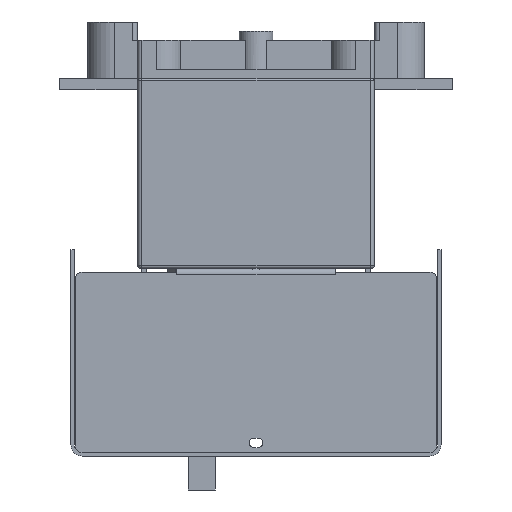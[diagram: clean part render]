
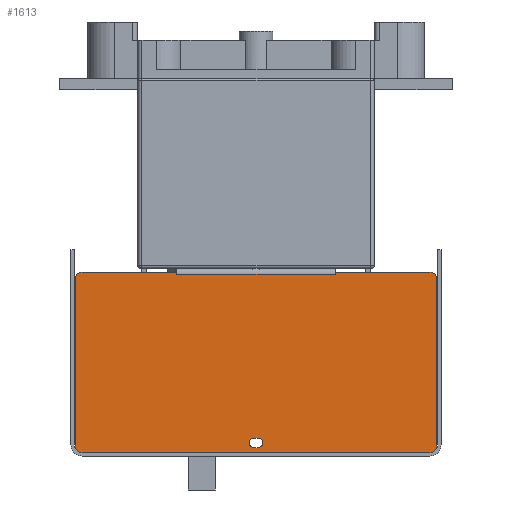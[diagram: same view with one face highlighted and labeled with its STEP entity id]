
A CAD part, left-side view. The second image highlights one B-rep face of the part: STEP entity #1613.
In plain terms, the highlighted planar face has unit normal (-1, 0, 0).
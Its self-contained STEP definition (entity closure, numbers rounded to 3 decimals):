
#1613=ADVANCED_FACE('',(#6957,#6958),#2451,.T.);
#2451=PLANE('',#19322);
#3534=LINE('',#27707,#5500);
#3544=LINE('',#27732,#5510);
#3546=LINE('',#27736,#5512);
#3548=LINE('',#27740,#5514);
#3551=LINE('',#27746,#5517);
#3561=LINE('',#27781,#5527);
#3562=LINE('',#27785,#5528);
#3563=LINE('',#27786,#5529);
#3564=LINE('',#27790,#5530);
#3565=LINE('',#27794,#5531);
#3566=LINE('',#27798,#5532);
#3567=LINE('',#27802,#5533);
#5500=VECTOR('',#22209,1.);
#5510=VECTOR('',#22235,1.);
#5512=VECTOR('',#22239,1.);
#5514=VECTOR('',#22243,1.);
#5517=VECTOR('',#22248,1.);
#5527=VECTOR('',#22276,1.);
#5528=VECTOR('',#22279,1.);
#5529=VECTOR('',#22280,1.);
#5530=VECTOR('',#22283,1.);
#5531=VECTOR('',#22286,1.);
#5532=VECTOR('',#22289,1.);
#5533=VECTOR('',#22292,1.);
#6957=FACE_BOUND('',#7524,.T.);
#6958=FACE_BOUND('',#7525,.T.);
#7524=EDGE_LOOP('',(#10116,#10117,#10118,#10119));
#7525=EDGE_LOOP('',(#10120,#10121,#10122,#10123,#10124,#10125,#10126,#10127,
#10128,#10129,#10130,#10131,#10132,#10133));
#10116=ORIENTED_EDGE('',*,*,#16308,.T.);
#10117=ORIENTED_EDGE('',*,*,#16309,.T.);
#10118=ORIENTED_EDGE('',*,*,#16310,.T.);
#10119=ORIENTED_EDGE('',*,*,#16311,.T.);
#10120=ORIENTED_EDGE('',*,*,#16287,.F.);
#10121=ORIENTED_EDGE('',*,*,#16285,.T.);
#10122=ORIENTED_EDGE('',*,*,#16272,.T.);
#10123=ORIENTED_EDGE('',*,*,#16289,.T.);
#10124=ORIENTED_EDGE('',*,*,#16292,.F.);
#10125=ORIENTED_EDGE('',*,*,#16312,.T.);
#10126=ORIENTED_EDGE('',*,*,#16313,.T.);
#10127=ORIENTED_EDGE('',*,*,#16314,.T.);
#10128=ORIENTED_EDGE('',*,*,#16315,.T.);
#10129=ORIENTED_EDGE('',*,*,#16316,.T.);
#10130=ORIENTED_EDGE('',*,*,#16317,.T.);
#10131=ORIENTED_EDGE('',*,*,#16318,.T.);
#10132=ORIENTED_EDGE('',*,*,#16319,.T.);
#10133=ORIENTED_EDGE('',*,*,#16320,.T.);
#14229=VERTEX_POINT('',#27706);
#14230=VERTEX_POINT('',#27708);
#14235=VERTEX_POINT('',#27729);
#14238=VERTEX_POINT('',#27737);
#14239=VERTEX_POINT('',#27741);
#14241=VERTEX_POINT('',#27747);
#14255=VERTEX_POINT('',#27779);
#14256=VERTEX_POINT('',#27780);
#14257=VERTEX_POINT('',#27782);
#14258=VERTEX_POINT('',#27784);
#14259=VERTEX_POINT('',#27787);
#14260=VERTEX_POINT('',#27789);
#14261=VERTEX_POINT('',#27791);
#14262=VERTEX_POINT('',#27793);
#14263=VERTEX_POINT('',#27795);
#14264=VERTEX_POINT('',#27797);
#14265=VERTEX_POINT('',#27799);
#14266=VERTEX_POINT('',#27801);
#16272=EDGE_CURVE('',#14230,#14229,#3534,.T.);
#16285=EDGE_CURVE('',#14235,#14230,#3544,.T.);
#16287=EDGE_CURVE('',#14235,#14238,#3546,.T.);
#16289=EDGE_CURVE('',#14229,#14239,#3548,.T.);
#16292=EDGE_CURVE('',#14241,#14239,#3551,.T.);
#16308=EDGE_CURVE('',#14255,#14256,#18269,.T.);
#16309=EDGE_CURVE('',#14256,#14257,#3561,.T.);
#16310=EDGE_CURVE('',#14257,#14258,#18270,.T.);
#16311=EDGE_CURVE('',#14258,#14255,#3562,.T.);
#16312=EDGE_CURVE('',#14241,#14259,#3563,.T.);
#16313=EDGE_CURVE('',#14259,#14260,#18271,.T.);
#16314=EDGE_CURVE('',#14260,#14261,#3564,.T.);
#16315=EDGE_CURVE('',#14261,#14262,#18272,.T.);
#16316=EDGE_CURVE('',#14262,#14263,#3565,.T.);
#16317=EDGE_CURVE('',#14263,#14264,#18273,.T.);
#16318=EDGE_CURVE('',#14264,#14265,#3566,.T.);
#16319=EDGE_CURVE('',#14265,#14266,#18274,.T.);
#16320=EDGE_CURVE('',#14266,#14238,#3567,.T.);
#18269=CIRCLE('',#19316,2.1);
#18270=CIRCLE('',#19317,2.1);
#18271=CIRCLE('',#19318,3.);
#18272=CIRCLE('',#19319,3.);
#18273=CIRCLE('',#19320,3.);
#18274=CIRCLE('',#19321,3.);
#19316=AXIS2_PLACEMENT_3D('',#27778,#22274,#22275);
#19317=AXIS2_PLACEMENT_3D('',#27783,#22277,#22278);
#19318=AXIS2_PLACEMENT_3D('',#27788,#22281,#22282);
#19319=AXIS2_PLACEMENT_3D('',#27792,#22284,#22285);
#19320=AXIS2_PLACEMENT_3D('',#27796,#22287,#22288);
#19321=AXIS2_PLACEMENT_3D('',#27800,#22290,#22291);
#19322=AXIS2_PLACEMENT_3D('',#27803,#22293,#22294);
#22209=DIRECTION('',(0.,1.,0.));
#22235=DIRECTION('',(0.,1.,0.));
#22239=DIRECTION('',(0.,0.,1.));
#22243=DIRECTION('',(0.,1.,0.));
#22248=DIRECTION('',(0.,0.,-1.));
#22274=DIRECTION('',(1.,0.,0.));
#22275=DIRECTION('',(0.,1.,0.));
#22276=DIRECTION('',(0.,-1.,0.));
#22277=DIRECTION('',(1.,0.,0.));
#22278=DIRECTION('',(0.,1.,0.));
#22279=DIRECTION('',(0.,1.,0.));
#22280=DIRECTION('',(0.,1.,0.));
#22281=DIRECTION('',(-1.,0.,0.));
#22282=DIRECTION('',(0.,1.,0.));
#22283=DIRECTION('',(0.,0.,-1.));
#22284=DIRECTION('',(-1.,0.,0.));
#22285=DIRECTION('',(0.,1.,0.));
#22286=DIRECTION('',(0.,-1.,0.));
#22287=DIRECTION('',(-1.,0.,0.));
#22288=DIRECTION('',(0.,1.,0.));
#22289=DIRECTION('',(0.,0.,1.));
#22290=DIRECTION('',(-1.,0.,0.));
#22291=DIRECTION('',(0.,1.,0.));
#22292=DIRECTION('',(0.,1.,0.));
#22293=DIRECTION('',(-1.,0.,0.));
#22294=DIRECTION('',(0.,-1.,0.));
#27706=CARTESIAN_POINT('',(-189.3,35.,-86.8));
#27707=CARTESIAN_POINT('',(-189.3,50.5,-86.8));
#27708=CARTESIAN_POINT('',(-189.3,-35.,-86.8));
#27729=CARTESIAN_POINT('',(-189.3,-35.002,-86.8));
#27732=CARTESIAN_POINT('',(-189.3,77.,-86.8));
#27736=CARTESIAN_POINT('',(-189.3,-35.002,-162.8));
#27737=CARTESIAN_POINT('',(-189.3,-35.002,-85.8));
#27740=CARTESIAN_POINT('',(-189.3,77.,-86.8));
#27741=CARTESIAN_POINT('',(-189.3,35.002,-86.8));
#27746=CARTESIAN_POINT('',(-189.3,35.002,-162.8));
#27747=CARTESIAN_POINT('',(-189.3,35.002,-85.8));
#27778=CARTESIAN_POINT('',(-189.3,1.,-161.4));
#27779=CARTESIAN_POINT('',(-189.3,1.,-163.5));
#27780=CARTESIAN_POINT('',(-189.3,1.,-159.3));
#27781=CARTESIAN_POINT('',(-189.3,1.,-159.3));
#27782=CARTESIAN_POINT('',(-189.3,-1.,-159.3));
#27783=CARTESIAN_POINT('',(-189.3,-1.,-161.4));
#27784=CARTESIAN_POINT('',(-189.3,-1.,-163.5));
#27785=CARTESIAN_POINT('',(-189.3,-1.,-163.5));
#27786=CARTESIAN_POINT('',(-189.3,-77.,-85.8));
#27787=CARTESIAN_POINT('',(-189.3,77.,-85.8));
#27788=CARTESIAN_POINT('',(-189.3,77.,-88.8));
#27789=CARTESIAN_POINT('',(-189.3,80.,-88.8));
#27790=CARTESIAN_POINT('',(-189.3,80.,-88.8));
#27791=CARTESIAN_POINT('',(-189.3,80.,-162.8));
#27792=CARTESIAN_POINT('',(-189.3,77.,-162.8));
#27793=CARTESIAN_POINT('',(-189.3,77.,-165.8));
#27794=CARTESIAN_POINT('',(-189.3,77.,-165.8));
#27795=CARTESIAN_POINT('',(-189.3,-77.,-165.8));
#27796=CARTESIAN_POINT('',(-189.3,-77.,-162.8));
#27797=CARTESIAN_POINT('',(-189.3,-80.,-162.8));
#27798=CARTESIAN_POINT('',(-189.3,-80.,-162.8));
#27799=CARTESIAN_POINT('',(-189.3,-80.,-88.8));
#27800=CARTESIAN_POINT('',(-189.3,-77.,-88.8));
#27801=CARTESIAN_POINT('',(-189.3,-77.,-85.8));
#27802=CARTESIAN_POINT('',(-189.3,-77.,-85.8));
#27803=CARTESIAN_POINT('',(-189.3,77.,-162.8));
